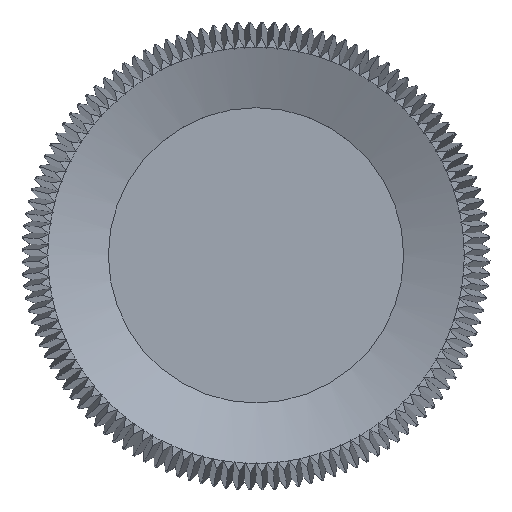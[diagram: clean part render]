
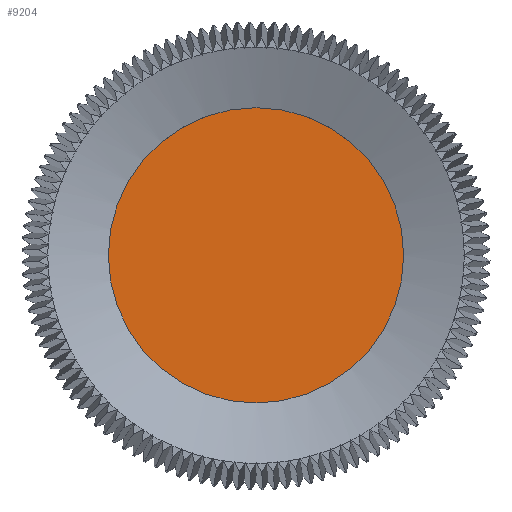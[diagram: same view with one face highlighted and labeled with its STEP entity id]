
A CAD part, top view. The second image highlights one B-rep face of the part: STEP entity #9204.
In plain terms, the highlighted planar face has unit normal (0, 0, 1).
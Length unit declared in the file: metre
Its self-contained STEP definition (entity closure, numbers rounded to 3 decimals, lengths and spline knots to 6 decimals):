
#137=CIRCLE('',#9699,0.004594);
#629=ORIENTED_EDGE('',*,*,#3521,.T.);
#3521=EDGE_CURVE('',#4967,#4967,#137,.T.);
#4967=VERTEX_POINT('',#13588);
#7860=EDGE_LOOP('',(#629));
#8350=FACE_BOUND('',#7860,.T.);
#8839=PLANE('',#9698);
#9204=ADVANCED_FACE('',(#8350),#8839,.T.);
#9698=AXIS2_PLACEMENT_3D('',#13586,#10680,#10681);
#9699=AXIS2_PLACEMENT_3D('',#13587,#10682,#10683);
#10680=DIRECTION('',(0.,0.,1.));
#10681=DIRECTION('',(1.,0.,0.));
#10682=DIRECTION('',(0.,0.,1.));
#10683=DIRECTION('',(0.,-1.,0.));
#13586=CARTESIAN_POINT('',(-0.004,-0.055006,0.005942));
#13587=CARTESIAN_POINT('',(-0.004,-0.055006,0.005942));
#13588=CARTESIAN_POINT('',(-0.004,-0.0596,0.005942));
